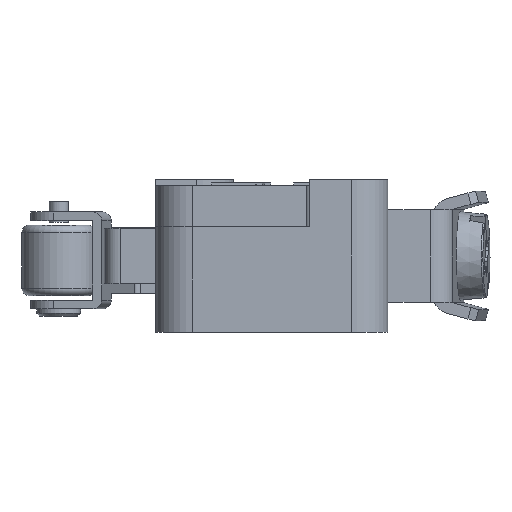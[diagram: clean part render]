
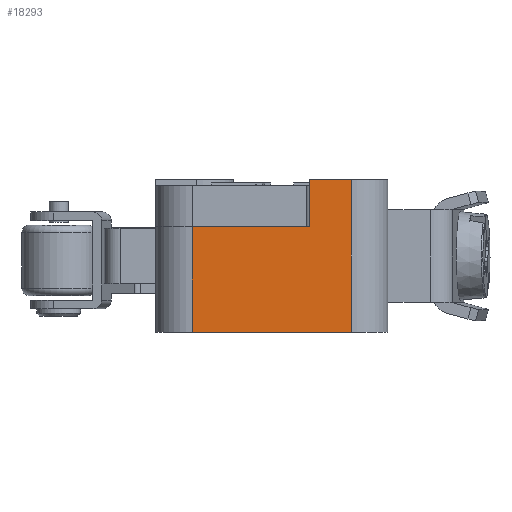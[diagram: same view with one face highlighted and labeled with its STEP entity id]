
A CAD part, left-side view. The second image highlights one B-rep face of the part: STEP entity #18293.
In plain terms, the highlighted planar face has unit normal (-1, 0, 0).
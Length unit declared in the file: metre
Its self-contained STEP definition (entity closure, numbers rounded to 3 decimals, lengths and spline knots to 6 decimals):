
#18152=CARTESIAN_POINT('',(-0.027238,-0.017123,0.033313));
#18153=VERTEX_POINT('',#18152);
#18187=CARTESIAN_POINT('',(-0.027238,-0.014323,0.033313));
#18188=VERTEX_POINT('',#18187);
#18191=CARTESIAN_POINT('',(-0.027238,-0.014323,0.033313));
#18192=DIRECTION('',(0.,-1.,0.));
#18193=VECTOR('',#18192,1.);
#18194=LINE('',#18191,#18193);
#18195=EDGE_CURVE('',#18188,#18153,#18194,.T.);
#18224=CARTESIAN_POINT('',(-0.027238,-0.017123,0.022913));
#18225=VERTEX_POINT('',#18224);
#18237=CARTESIAN_POINT('',(-0.027238,-0.017123,0.033313));
#18238=DIRECTION('',(0.,0.,-1.));
#18239=VECTOR('',#18238,1.);
#18240=LINE('',#18237,#18239);
#18241=EDGE_CURVE('',#18153,#18225,#18240,.T.);
#18254=CARTESIAN_POINT('',(-0.027238,-0.014323,0.033313));
#18255=DIRECTION('',(1.,0.,0.));
#18256=DIRECTION('',(0.,1.,0.));
#18257=AXIS2_PLACEMENT_3D('',#18254,#18255,#18256);
#18258=PLANE('',#18257);
#18259=CARTESIAN_POINT('',(-0.027238,-0.014323,0.022913));
#18260=DIRECTION('',(0.,-1.,0.));
#18261=VECTOR('',#18260,1.);
#18262=LINE('',#18259,#18261);
#18263=CARTESIAN_POINT('',(-0.027238,-0.006323,0.022913));
#18264=VERTEX_POINT('',#18263);
#18265=EDGE_CURVE('',#18264,#18225,#18262,.T.);
#18266=ORIENTED_EDGE('',*,*,#18265,.T.);
#18267=ORIENTED_EDGE('',*,*,#18241,.F.);
#18268=ORIENTED_EDGE('',*,*,#18195,.F.);
#18269=CARTESIAN_POINT('',(-0.027238,-0.014323,0.033313));
#18270=DIRECTION('',(0.,0.,-1.));
#18271=VECTOR('',#18270,1.);
#18272=LINE('',#18269,#18271);
#18273=CARTESIAN_POINT('',(-0.027238,-0.014323,0.030113));
#18274=VERTEX_POINT('',#18273);
#18275=EDGE_CURVE('',#18188,#18274,#18272,.T.);
#18276=ORIENTED_EDGE('',*,*,#18275,.T.);
#18277=CARTESIAN_POINT('',(-0.027238,-0.011723,0.030113));
#18278=DIRECTION('',(0.,-1.,0.));
#18279=VECTOR('',#18278,1.);
#18280=LINE('',#18277,#18279);
#18281=CARTESIAN_POINT('',(-0.027238,-0.006323,0.030113));
#18282=VERTEX_POINT('',#18281);
#18283=EDGE_CURVE('',#18282,#18274,#18280,.T.);
#18284=ORIENTED_EDGE('',*,*,#18283,.F.);
#18285=CARTESIAN_POINT('',(-0.027238,-0.006323,0.030113));
#18286=DIRECTION('',(0.,0.,-1.));
#18287=VECTOR('',#18286,1.);
#18288=LINE('',#18285,#18287);
#18289=EDGE_CURVE('',#18282,#18264,#18288,.T.);
#18290=ORIENTED_EDGE('',*,*,#18289,.T.);
#18291=EDGE_LOOP('',(#18266,#18267,#18268,#18276,#18284,#18290));
#18292=FACE_BOUND('',#18291,.T.);
#18293=ADVANCED_FACE('',(#18292),#18258,.F.);
